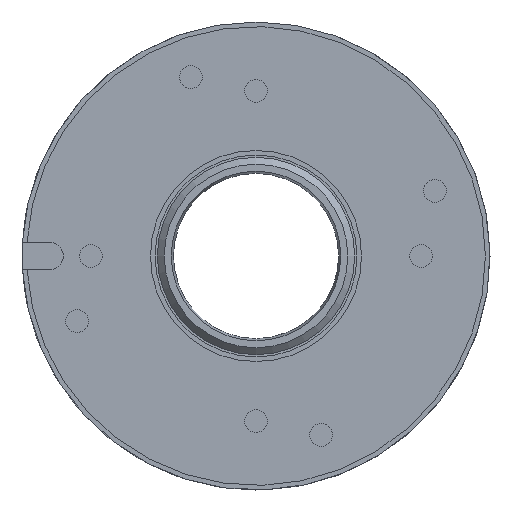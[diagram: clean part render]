
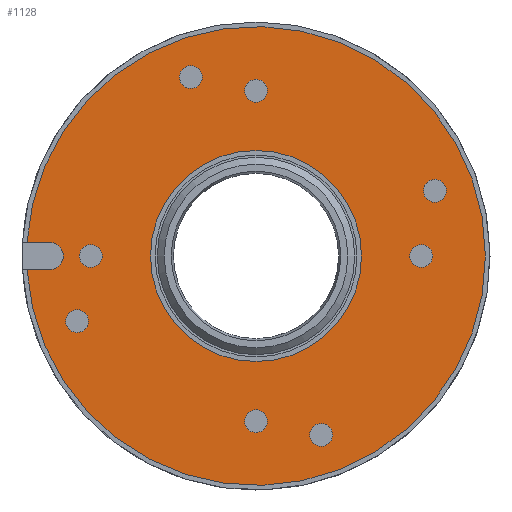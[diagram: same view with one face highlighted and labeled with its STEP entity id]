
A CAD part, left-side view. The second image highlights one B-rep face of the part: STEP entity #1128.
In plain terms, the highlighted planar face has unit normal (-1, 0, 0).
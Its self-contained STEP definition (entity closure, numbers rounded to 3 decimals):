
#3 = CIRCLE ( 'NONE', #304, 2.5 ) ;
#5 = FACE_BOUND ( 'NONE', #1210, .T. ) ;
#38 = CARTESIAN_POINT ( 'NONE',  ( 0., 57., 3. ) ) ;
#64 = AXIS2_PLACEMENT_3D ( 'NONE', #1161, #689, #1191 ) ;
#73 = CARTESIAN_POINT ( 'NONE',  ( 0., -16.694, -38.997 ) ) ;
#77 = EDGE_LOOP ( 'NONE', ( #1589 ) ) ;
#89 = VERTEX_POINT ( 'NONE', #1101 ) ;
#121 = CIRCLE ( 'NONE', #1372, 2.5 ) ;
#130 = CARTESIAN_POINT ( 'NONE',  ( 0., 0., -3. ) ) ;
#151 = AXIS2_PLACEMENT_3D ( 'NONE', #899, #890, #1194 ) ;
#163 = CARTESIAN_POINT ( 'NONE',  ( 0., 0., 0. ) ) ;
#185 = EDGE_LOOP ( 'NONE', ( #1303 ) ) ;
#224 = ORIENTED_EDGE ( 'NONE', *, *, #1368, .T. ) ;
#242 = DIRECTION ( 'NONE',  ( 0., 1., 0. ) ) ;
#273 = PLANE ( 'NONE',  #1419 ) ;
#293 = EDGE_CURVE ( 'NONE', #1087, #1087, #973, .T. ) ;
#304 = AXIS2_PLACEMENT_3D ( 'NONE', #363, #1007, #379 ) ;
#310 = AXIS2_PLACEMENT_3D ( 'NONE', #528, #404, #639 ) ;
#319 = EDGE_LOOP ( 'NONE', ( #466 ) ) ;
#347 = ORIENTED_EDGE ( 'NONE', *, *, #685, .F. ) ;
#350 = CARTESIAN_POINT ( 'NONE',  ( 0., -38.997, 16.694 ) ) ;
#351 = ORIENTED_EDGE ( 'NONE', *, *, #1001, .T. ) ;
#357 = DIRECTION ( 'NONE',  ( 0., -1., 0. ) ) ;
#363 = CARTESIAN_POINT ( 'NONE',  ( 0., 14.194, 38.997 ) ) ;
#378 = VERTEX_POINT ( 'NONE', #387 ) ;
#379 = DIRECTION ( 'NONE',  ( 0., 1., 0. ) ) ;
#387 = CARTESIAN_POINT ( 'NONE',  ( 0., 2.5, 36. ) ) ;
#404 = DIRECTION ( 'NONE',  ( -1., 0., 0. ) ) ;
#438 = CIRCLE ( 'NONE', #748, 50. ) ;
#447 = DIRECTION ( 'NONE',  ( 0., 0., 1. ) ) ;
#465 = VERTEX_POINT ( 'NONE', #73 ) ;
#466 = ORIENTED_EDGE ( 'NONE', *, *, #1426, .F. ) ;
#485 = VERTEX_POINT ( 'NONE', #615 ) ;
#491 = EDGE_LOOP ( 'NONE', ( #1535 ) ) ;
#526 = DIRECTION ( 'NONE',  ( -1., 0., 0. ) ) ;
#527 = ORIENTED_EDGE ( 'NONE', *, *, #751, .F. ) ;
#528 = CARTESIAN_POINT ( 'NONE',  ( 0., -38.997, 14.194 ) ) ;
#531 = DIRECTION ( 'NONE',  ( 0., -1., 0. ) ) ;
#566 = EDGE_CURVE ( 'NONE', #1218, #614, #1475, .T. ) ;
#579 = CARTESIAN_POINT ( 'NONE',  ( 0., 49.91, 3. ) ) ;
#581 = EDGE_CURVE ( 'NONE', #465, #465, #1608, .T. ) ;
#614 = VERTEX_POINT ( 'NONE', #1380 ) ;
#615 = CARTESIAN_POINT ( 'NONE',  ( 0., 36., -2.5 ) ) ;
#633 = EDGE_CURVE ( 'NONE', #1479, #1479, #654, .T. ) ;
#636 = ORIENTED_EDGE ( 'NONE', *, *, #293, .F. ) ;
#639 = DIRECTION ( 'NONE',  ( 0., 0., 1. ) ) ;
#640 = CARTESIAN_POINT ( 'NONE',  ( 0., 38.997, -16.694 ) ) ;
#654 = CIRCLE ( 'NONE', #310, 2.5 ) ;
#667 = FACE_BOUND ( 'NONE', #1168, .T. ) ;
#685 = EDGE_CURVE ( 'NONE', #614, #761, #1037, .T. ) ;
#689 = DIRECTION ( 'NONE',  ( -1., 0., 0. ) ) ;
#700 = CIRCLE ( 'NONE', #880, 2.5 ) ;
#710 = VECTOR ( 'NONE', #1193, 1000. ) ;
#717 = EDGE_LOOP ( 'NONE', ( #989 ) ) ;
#719 = CARTESIAN_POINT ( 'NONE',  ( 0., 0., 0. ) ) ;
#727 = CIRCLE ( 'NONE', #1367, 2.5 ) ;
#748 = AXIS2_PLACEMENT_3D ( 'NONE', #163, #1040, #1424 ) ;
#751 = EDGE_CURVE ( 'NONE', #89, #89, #1638, .T. ) ;
#761 = VERTEX_POINT ( 'NONE', #579 ) ;
#774 = CARTESIAN_POINT ( 'NONE',  ( 0., 0., 0. ) ) ;
#813 = AXIS2_PLACEMENT_3D ( 'NONE', #983, #1199, #357 ) ;
#848 = EDGE_LOOP ( 'NONE', ( #636 ) ) ;
#851 = VERTEX_POINT ( 'NONE', #1364 ) ;
#880 = AXIS2_PLACEMENT_3D ( 'NONE', #926, #1031, #1061 ) ;
#883 = CARTESIAN_POINT ( 'NONE',  ( 0., 36., 0. ) ) ;
#890 = DIRECTION ( 'NONE',  ( -1., 0., 0. ) ) ;
#897 = CARTESIAN_POINT ( 'NONE',  ( 0., 16.694, 38.997 ) ) ;
#899 = CARTESIAN_POINT ( 'NONE',  ( 0., 45., 0. ) ) ;
#918 = FACE_BOUND ( 'NONE', #77, .T. ) ;
#926 = CARTESIAN_POINT ( 'NONE',  ( 0., 0., 36. ) ) ;
#934 = DIRECTION ( 'NONE',  ( -1., 0., 0. ) ) ;
#935 = FACE_BOUND ( 'NONE', #1613, .T. ) ;
#973 = CIRCLE ( 'NONE', #1606, 23. ) ;
#981 = EDGE_CURVE ( 'NONE', #851, #851, #121, .T. ) ;
#983 = CARTESIAN_POINT ( 'NONE',  ( 0., 0., -36. ) ) ;
#985 = DIRECTION ( 'NONE',  ( 0., 0., -1. ) ) ;
#987 = LINE ( 'NONE', #130, #1294 ) ;
#989 = ORIENTED_EDGE ( 'NONE', *, *, #1276, .F. ) ;
#991 = CARTESIAN_POINT ( 'NONE',  ( 0., 45., -3. ) ) ;
#1001 = EDGE_CURVE ( 'NONE', #1218, #1628, #987, .T. ) ;
#1006 = EDGE_LOOP ( 'NONE', ( #224, #347, #1595, #351 ) ) ;
#1007 = DIRECTION ( 'NONE',  ( -1., 0., 0. ) ) ;
#1013 = ORIENTED_EDGE ( 'NONE', *, *, #633, .F. ) ;
#1014 = VERTEX_POINT ( 'NONE', #897 ) ;
#1026 = DIRECTION ( 'NONE',  ( 0., 0., -1. ) ) ;
#1031 = DIRECTION ( 'NONE',  ( -1., 0., 0. ) ) ;
#1037 = LINE ( 'NONE', #38, #710 ) ;
#1040 = DIRECTION ( 'NONE',  ( -1., 0., 0. ) ) ;
#1042 = FACE_BOUND ( 'NONE', #848, .T. ) ;
#1061 = DIRECTION ( 'NONE',  ( 0., 1., 0. ) ) ;
#1080 = CARTESIAN_POINT ( 'NONE',  ( 0., 0., 23. ) ) ;
#1087 = VERTEX_POINT ( 'NONE', #1080 ) ;
#1101 = CARTESIAN_POINT ( 'NONE',  ( 0., -2.5, -36. ) ) ;
#1128 = ADVANCED_FACE ( 'NONE', ( #1546, #918, #5, #1425, #667, #1173, #935, #1164, #1042, #1322 ), #273, .F. ) ;
#1141 = CARTESIAN_POINT ( 'NONE',  ( 0., -36., 0. ) ) ;
#1161 = CARTESIAN_POINT ( 'NONE',  ( 0., 38.997, -14.194 ) ) ;
#1164 = FACE_BOUND ( 'NONE', #491, .T. ) ;
#1168 = EDGE_LOOP ( 'NONE', ( #527 ) ) ;
#1173 = FACE_BOUND ( 'NONE', #717, .T. ) ;
#1191 = DIRECTION ( 'NONE',  ( 0., 0., -1. ) ) ;
#1193 = DIRECTION ( 'NONE',  ( 0., 1., 0. ) ) ;
#1194 = DIRECTION ( 'NONE',  ( 0., 0., 1. ) ) ;
#1199 = DIRECTION ( 'NONE',  ( -1., 0., 0. ) ) ;
#1210 = EDGE_LOOP ( 'NONE', ( #1620 ) ) ;
#1218 = VERTEX_POINT ( 'NONE', #991 ) ;
#1221 = EDGE_CURVE ( 'NONE', #1014, #1014, #3, .T. ) ;
#1230 = CIRCLE ( 'NONE', #64, 2.5 ) ;
#1246 = DIRECTION ( 'NONE',  ( -1., 0., 0. ) ) ;
#1263 = AXIS2_PLACEMENT_3D ( 'NONE', #1278, #934, #531 ) ;
#1276 = EDGE_CURVE ( 'NONE', #378, #378, #700, .T. ) ;
#1278 = CARTESIAN_POINT ( 'NONE',  ( 0., -14.194, -38.997 ) ) ;
#1279 = DIRECTION ( 'NONE',  ( 0., 0., 1. ) ) ;
#1294 = VECTOR ( 'NONE', #242, 1000. ) ;
#1303 = ORIENTED_EDGE ( 'NONE', *, *, #1630, .F. ) ;
#1312 = DIRECTION ( 'NONE',  ( 1., 0., 0. ) ) ;
#1322 = FACE_OUTER_BOUND ( 'NONE', #1006, .T. ) ;
#1325 = CARTESIAN_POINT ( 'NONE',  ( 0., 49.91, -3. ) ) ;
#1331 = DIRECTION ( 'NONE',  ( -1., 0., 0. ) ) ;
#1364 = CARTESIAN_POINT ( 'NONE',  ( 0., -36., 2.5 ) ) ;
#1367 = AXIS2_PLACEMENT_3D ( 'NONE', #883, #526, #985 ) ;
#1368 = EDGE_CURVE ( 'NONE', #1628, #761, #438, .T. ) ;
#1372 = AXIS2_PLACEMENT_3D ( 'NONE', #1141, #1246, #1279 ) ;
#1380 = CARTESIAN_POINT ( 'NONE',  ( 0., 45., 3. ) ) ;
#1419 = AXIS2_PLACEMENT_3D ( 'NONE', #774, #1312, #1026 ) ;
#1424 = DIRECTION ( 'NONE',  ( 0., 0., 1. ) ) ;
#1425 = FACE_BOUND ( 'NONE', #319, .T. ) ;
#1426 = EDGE_CURVE ( 'NONE', #485, #485, #727, .T. ) ;
#1475 = CIRCLE ( 'NONE', #151, 3. ) ;
#1479 = VERTEX_POINT ( 'NONE', #350 ) ;
#1498 = VERTEX_POINT ( 'NONE', #640 ) ;
#1535 = ORIENTED_EDGE ( 'NONE', *, *, #981, .F. ) ;
#1546 = FACE_BOUND ( 'NONE', #185, .T. ) ;
#1589 = ORIENTED_EDGE ( 'NONE', *, *, #581, .F. ) ;
#1595 = ORIENTED_EDGE ( 'NONE', *, *, #566, .F. ) ;
#1606 = AXIS2_PLACEMENT_3D ( 'NONE', #719, #1331, #447 ) ;
#1608 = CIRCLE ( 'NONE', #1263, 2.5 ) ;
#1613 = EDGE_LOOP ( 'NONE', ( #1013 ) ) ;
#1620 = ORIENTED_EDGE ( 'NONE', *, *, #1221, .F. ) ;
#1628 = VERTEX_POINT ( 'NONE', #1325 ) ;
#1630 = EDGE_CURVE ( 'NONE', #1498, #1498, #1230, .T. ) ;
#1638 = CIRCLE ( 'NONE', #813, 2.5 ) ;
